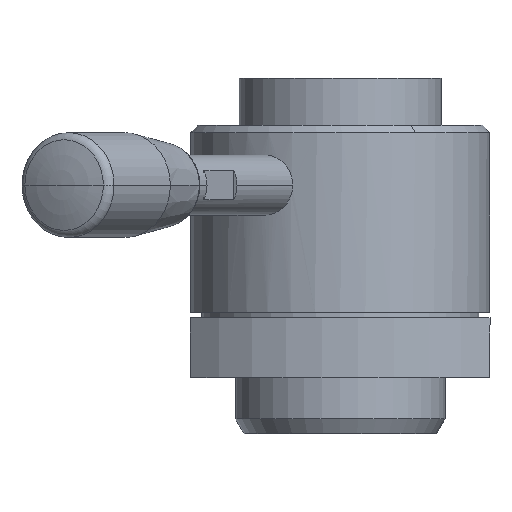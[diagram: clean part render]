
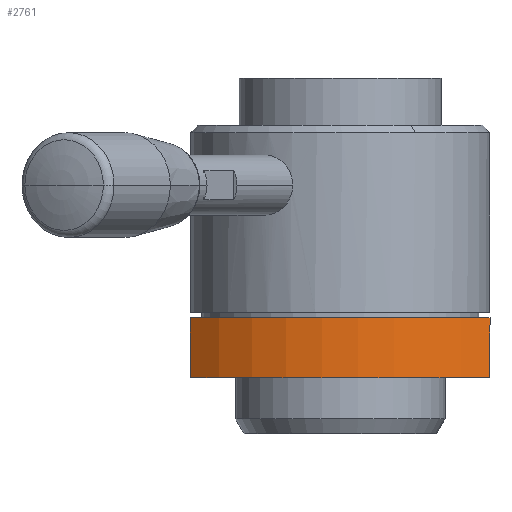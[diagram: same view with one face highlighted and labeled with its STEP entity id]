
A CAD part, left-side view. The second image highlights one B-rep face of the part: STEP entity #2761.
In plain terms, the highlighted cylindrical face has radius 29.75 mm (diameter 59.5 mm), a partial arc.
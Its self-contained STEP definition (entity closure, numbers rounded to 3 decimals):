
#295 = ORIENTED_EDGE ( 'NONE', *, *, #1303, .F. ) ;
#427 = DIRECTION ( 'NONE',  ( 0., 0., 1. ) ) ;
#690 = VECTOR ( 'NONE', #2315, 1000. ) ;
#737 = AXIS2_PLACEMENT_3D ( 'NONE', #2196, #1921, #1858 ) ;
#921 = VERTEX_POINT ( 'NONE', #2642 ) ;
#1115 = DIRECTION ( 'NONE',  ( 0., 0., -1. ) ) ;
#1194 = DIRECTION ( 'NONE',  ( 0., 0., -1. ) ) ;
#1303 = EDGE_CURVE ( 'NONE', #2364, #921, #4320, .T. ) ;
#1402 = CARTESIAN_POINT ( 'NONE',  ( 0., 0., -8. ) ) ;
#1512 = FACE_OUTER_BOUND ( 'NONE', #4260, .T. ) ;
#1556 = CYLINDRICAL_SURFACE ( 'NONE', #737, 29.75 ) ;
#1576 = ORIENTED_EDGE ( 'NONE', *, *, #2651, .T. ) ;
#1605 = VECTOR ( 'NONE', #1115, 1000. ) ;
#1676 = CARTESIAN_POINT ( 'NONE',  ( 22.024, 20., -8. ) ) ;
#1858 = DIRECTION ( 'NONE',  ( 0., 1., 0. ) ) ;
#1921 = DIRECTION ( 'NONE',  ( 0., 0., 1. ) ) ;
#1969 = AXIS2_PLACEMENT_3D ( 'NONE', #2609, #1194, #3343 ) ;
#2137 = CARTESIAN_POINT ( 'NONE',  ( 22.024, 20., 0. ) ) ;
#2196 = CARTESIAN_POINT ( 'NONE',  ( 0., 0., 0. ) ) ;
#2315 = DIRECTION ( 'NONE',  ( 0., 0., 1. ) ) ;
#2364 = VERTEX_POINT ( 'NONE', #2612 ) ;
#2609 = CARTESIAN_POINT ( 'NONE',  ( 0., 0., 0. ) ) ;
#2612 = CARTESIAN_POINT ( 'NONE',  ( 22.024, -20., -8. ) ) ;
#2642 = CARTESIAN_POINT ( 'NONE',  ( 22.024, -20., 0. ) ) ;
#2651 = EDGE_CURVE ( 'NONE', #4442, #921, #2919, .T. ) ;
#2710 = ORIENTED_EDGE ( 'NONE', *, *, #4194, .T. ) ;
#2761 = ADVANCED_FACE ( 'NONE', ( #1512 ), #1556, .T. ) ;
#2919 = CIRCLE ( 'NONE', #1969, 29.75 ) ;
#3343 = DIRECTION ( 'NONE',  ( 0., 1., 0. ) ) ;
#3369 = CARTESIAN_POINT ( 'NONE',  ( 22.024, -20., 0. ) ) ;
#3459 = EDGE_CURVE ( 'NONE', #4442, #3793, #4300, .T. ) ;
#3793 = VERTEX_POINT ( 'NONE', #1676 ) ;
#3796 = CARTESIAN_POINT ( 'NONE',  ( 22.024, 20., 0. ) ) ;
#3817 = ORIENTED_EDGE ( 'NONE', *, *, #3459, .F. ) ;
#3872 = AXIS2_PLACEMENT_3D ( 'NONE', #1402, #427, #3906 ) ;
#3906 = DIRECTION ( 'NONE',  ( 0., -1., 0. ) ) ;
#4155 = CIRCLE ( 'NONE', #3872, 29.75 ) ;
#4194 = EDGE_CURVE ( 'NONE', #2364, #3793, #4155, .T. ) ;
#4260 = EDGE_LOOP ( 'NONE', ( #3817, #1576, #295, #2710 ) ) ;
#4300 = LINE ( 'NONE', #2137, #1605 ) ;
#4320 = LINE ( 'NONE', #3369, #690 ) ;
#4442 = VERTEX_POINT ( 'NONE', #3796 ) ;
